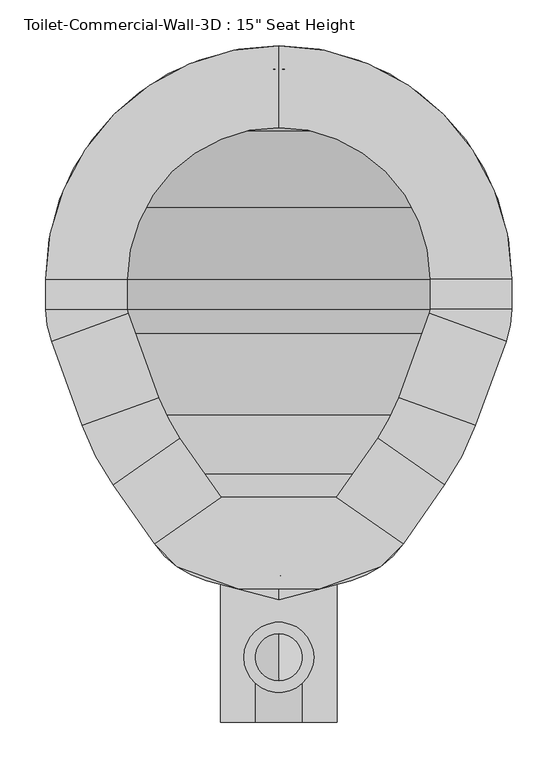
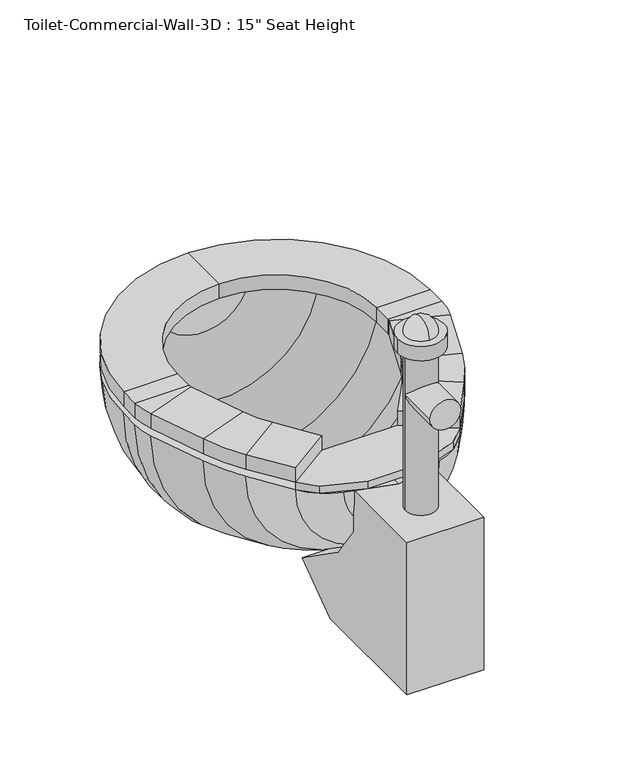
"""IFC4 building model written with IfcOpenShell, lengths in millimetres: flow terminal geometry."""

import ifcopenshell
import ifcopenshell.guid

model = None  # the IFC model being written
_history = None  # IfcOwnerHistory: only IFC2X3 demands one
_inside = {}  # id of a spatial element -> (the spatial element, [elements in it])
_under = {}  # id of a project, library or spatial element -> (it, [spatial elements below it])
_declared = {}  # id of a project -> (the project, [libraries it declares])
_typed = {}  # id of a type object -> (the type object, [elements of that type])
_made_of = {}  # id of a material, layer set ... -> (it, [elements and type objects made of it])


def new_model(schema):
    """Start an empty IFC model of exactly this schema.

    Asked for "IFC4X3", IfcOpenShell would pick the latest addendum, in which some entities
    have other attributes; the version numbers below select the first issue.
    IFC2X3 requires an IfcOwnerHistory on every rooted entity: one is made here for all.
    """
    global model, _history
    if schema == "IFC4X3":
        model = ifcopenshell.file(schema_version=(4, 3, 0, 0))
    else:
        model = ifcopenshell.file(schema=schema)
    _inside.clear()
    _under.clear()
    _declared.clear()
    _typed.clear()
    _made_of.clear()
    _history = None
    if model.schema == "IFC2X3":
        org = make("IfcOrganization", Name="unknown")
        user = make(
            "IfcPersonAndOrganization",
            ThePerson=make("IfcPerson", FamilyName="unknown"),
            TheOrganization=org,
        )
        app = make(
            "IfcApplication",
            ApplicationDeveloper=org,
            Version="unknown",
            ApplicationFullName="unknown",
            ApplicationIdentifier="unknown",
        )
        _history = make(
            "IfcOwnerHistory",
            OwningUser=user,
            OwningApplication=app,
            ChangeAction="ADDED",
            CreationDate=0,
        )
    return model


def make(cls, **values):
    """One entity of the class cls with the attributes given. An attribute that is None is left unset."""
    return model.create_entity(
        cls, **{name: value for name, value in values.items() if value is not None}
    )


def rooted(cls, **values):
    """An entity with a GlobalId (a new one), such as an element, a storey or a relation."""
    return make(cls, GlobalId=ifcopenshell.guid.new(), OwnerHistory=_history, **values)


def si_unit(unit_type, name, prefix=None):
    """IfcSIUnit, for example si_unit("LENGTHUNIT", "METRE", prefix="MILLI")."""
    return make("IfcSIUnit", UnitType=unit_type, Prefix=prefix, Name=name)


def assignment(units):
    """IfcUnitAssignment: the units of a project."""
    return None if units is None else make("IfcUnitAssignment", Units=units)


def point(xyz):
    """IfcCartesianPoint."""
    return None if xyz is None else make("IfcCartesianPoint", Coordinates=xyz)


def direction(xyz):
    """IfcDirection."""
    return None if xyz is None else make("IfcDirection", DirectionRatios=xyz)


def frame(location, z_axis=None, x_axis=None):
    """IfcAxis2Placement3D, a coordinate frame: its origin and axes. An axis left out is left unset."""
    return make(
        "IfcAxis2Placement3D",
        Location=point(location),
        Axis=direction(z_axis),
        RefDirection=direction(x_axis),
    )


def frame_2d(location, x_axis=None):
    """IfcAxis2Placement2D, a coordinate frame in the plane: its origin and x axis."""
    return make(
        "IfcAxis2Placement2D", Location=point(location), RefDirection=direction(x_axis)
    )


def origin():
    """The frame at (0, 0, 0) with its axes left unset."""
    return frame((0.0, 0.0, 0.0))


def place(relative_to, where):
    """IfcLocalPlacement: puts the frame where relative to a parent placement (None: the world)."""
    return make(
        "IfcLocalPlacement", PlacementRelTo=relative_to, RelativePlacement=where
    )


def context(
    kind, dimensions, precision=None, world=None, true_north=None, identifier=None
):
    """IfcGeometricRepresentationContext, for example the 3D "Model" context."""
    return make(
        "IfcGeometricRepresentationContext",
        ContextIdentifier=identifier,
        ContextType=kind,
        CoordinateSpaceDimension=dimensions,
        Precision=precision,
        WorldCoordinateSystem=world,
        TrueNorth=true_north,
    )


def project(units=None, contexts=None):
    """IfcProject with its units and contexts."""
    return rooted(
        "IfcProject",
        Name="project",
        RepresentationContexts=contexts,
        UnitsInContext=assignment(units),
    )


def spatial(cls, under=None, at=None, **own):
    """A site, building, storey or space (cls), placed at a placement, below another one or the project."""
    s = rooted(cls, ObjectPlacement=at, **own)
    if under is not None:
        _under.setdefault(under.id(), (under, []))[1].append(s)
    return s


def polyline(points):
    """IfcPolyline through the points."""
    return make("IfcPolyline", Points=[point(p) for p in points])


def circle_curve(where, radius):
    """IfcCircle in the frame where."""
    return make("IfcCircle", Position=where, Radius=radius)


def ellipse_curve(where, semi_axis1, semi_axis2):
    """IfcEllipse in the frame where."""
    return make(
        "IfcEllipse", Position=where, SemiAxis1=semi_axis1, SemiAxis2=semi_axis2
    )


def trimmed(basis, trim1, trim2, sense, master):
    """IfcTrimmedCurve: the piece of a basis curve between two trims."""
    return make(
        "IfcTrimmedCurve",
        BasisCurve=basis,
        Trim1=trim1,
        Trim2=trim2,
        SenseAgreement=sense,
        MasterRepresentation=master,
    )


def segment(curve, same_sense, transition):
    """IfcCompositeCurveSegment."""
    return make(
        "IfcCompositeCurveSegment",
        Transition=transition,
        SameSense=same_sense,
        ParentCurve=curve,
    )


def composite_curve(segments, self_intersect=None):
    """IfcCompositeCurve: segments joined end to end."""
    return make("IfcCompositeCurve", Segments=segments, SelfIntersect=self_intersect)


def outline(outer, holes=None, kind="AREA"):
    """IfcArbitraryClosedProfileDef: a profile drawn as a closed curve; with holes, ...WithVoids."""
    if holes is None:
        return make("IfcArbitraryClosedProfileDef", ProfileType=kind, OuterCurve=outer)
    return make(
        "IfcArbitraryProfileDefWithVoids",
        ProfileType=kind,
        OuterCurve=outer,
        InnerCurves=holes,
    )


def extrude(swept, where, along, depth):
    """IfcExtrudedAreaSolid: the profile swept, set in the frame where, extruded along a direction by depth."""
    return make(
        "IfcExtrudedAreaSolid",
        SweptArea=swept,
        Position=where,
        ExtrudedDirection=direction(along),
        Depth=depth,
    )


def shape(context_of_items, identifier, shape_type, items):
    """IfcShapeRepresentation: the items that make up one representation, for example the "Body"."""
    return make(
        "IfcShapeRepresentation",
        ContextOfItems=context_of_items,
        RepresentationIdentifier=identifier,
        RepresentationType=shape_type,
        Items=items,
    )


def source(mapping_origin, context_of_items, identifier, shape_type, items):
    """IfcRepresentationMap: a shape defined once, which mapped items show again and again."""
    return make(
        "IfcRepresentationMap",
        MappingOrigin=mapping_origin,
        MappedRepresentation=shape(context_of_items, identifier, shape_type, items),
    )


def transform(
    local_origin,
    x_axis=None,
    y_axis=None,
    z_axis=None,
    scale=None,
    scale2=None,
    scale3=None,
    uniform=True,
):
    """IfcCartesianTransformationOperator3D, or its non-uniform kind. x_axis, y_axis, z_axis: its Axis1, 2, 3."""
    if uniform:
        return make(
            "IfcCartesianTransformationOperator3D",
            Axis1=direction(x_axis),
            Axis2=direction(y_axis),
            LocalOrigin=point(local_origin),
            Scale=scale,
            Axis3=direction(z_axis),
        )
    return make(
        "IfcCartesianTransformationOperator3DnonUniform",
        Axis1=direction(x_axis),
        Axis2=direction(y_axis),
        LocalOrigin=point(local_origin),
        Scale=scale,
        Axis3=direction(z_axis),
        Scale2=scale2,
        Scale3=scale3,
    )


def mapped(mapping_source, mapping_target):
    """IfcMappedItem: shows the shape of a source again, moved by a transform."""
    return make(
        "IfcMappedItem", MappingSource=mapping_source, MappingTarget=mapping_target
    )


def made_of(thing, what):
    """Note that an element or type object is made of a material, layer set ...; save() writes the relation."""
    if what is not None:
        _made_of.setdefault(what.id(), (what, []))[1].append(thing)
    return thing


def element(
    cls,
    number,
    at=None,
    inside=None,
    cuts=None,
    type_object=None,
    material=None,
    context=None,
    identifier="Body",
    shape_type=None,
    held_by="IfcProductDefinitionShape",
    body=None,
    shapes=None,
    **own,
):
    """One element of the class cls, such as IfcWall. Its Tag is "e" and its number.

    at: its placement. inside: the storey or other place that contains it. cuts: it is an
    opening in that element (IfcRelVoidsElement). A single representation is given by context,
    identifier, shape_type and body (its items); several are given by shapes. held_by: the class
    of the entity that holds the representations. save() writes the other relations.
    """
    e = rooted(cls, Tag="e%d" % number, ObjectPlacement=at, **own)
    if body is not None:
        shapes = [shape(context, identifier, shape_type, body)]
    if shapes is not None:
        e.Representation = make(held_by, Representations=shapes)
    if inside is not None:
        _inside.setdefault(inside.id(), (inside, []))[1].append(e)
    if cuts is not None:
        rooted(
            "IfcRelVoidsElement", RelatingBuildingElement=cuts, RelatedOpeningElement=e
        )
    if type_object is not None:
        _typed.setdefault(type_object.id(), (type_object, []))[1].append(e)
    return made_of(e, material)


def aggregate(whole, parts):
    """IfcRelAggregates: a whole, such as a stair, and the parts it consists of."""
    return rooted("IfcRelAggregates", RelatingObject=whole, RelatedObjects=parts)


def save(model, path):
    """Write the relations noted so far, then the file.

    IfcRelAggregates (storeys below a building ...), IfcRelContainedInSpatialStructure (elements
    in a storey), IfcRelDefinesByType, IfcRelAssociatesMaterial and IfcRelDeclares: one each for
    every whole, place, type object, material and project.
    """
    for whole, parts in _under.values():
        aggregate(whole, parts)
    for where, things in _inside.values():
        rooted(
            "IfcRelContainedInSpatialStructure",
            RelatedElements=things,
            RelatingStructure=where,
        )
    for kind, things in _typed.values():
        rooted("IfcRelDefinesByType", RelatedObjects=things, RelatingType=kind)
    for what, things in _made_of.values():
        rooted("IfcRelAssociatesMaterial", RelatedObjects=things, RelatingMaterial=what)
    for by, libraries in _declared.values():
        rooted("IfcRelDeclares", RelatingContext=by, RelatedDefinitions=libraries)
    model.write(path)


def plane_surface(at):
    """IfcPlane: the flat surface through the origin of the frame at, square to its z axis."""
    return make("IfcPlane", Position=at)


def cylinder_surface(at, radius):
    """IfcCylindricalSurface: all points at the distance radius from the z axis of the frame at."""
    return make("IfcCylindricalSurface", Position=at, Radius=radius)


def revolved_surface(curve, axis_point, axis_direction):
    """IfcSurfaceOfRevolution: the curve turned about the line through axis_point along axis_direction."""
    return make(
        "IfcSurfaceOfRevolution",
        SweptCurve=make("IfcArbitraryOpenProfileDef", ProfileType="CURVE", Curve=curve),
        AxisPosition=make("IfcAxis1Placement", Location=point(axis_point), Axis=direction(axis_direction)),
    )


def advanced_brep(points, edges, surfaces, faces):
    """IfcAdvancedBrep: a solid bounded by faces that lie on surfaces and meet in shared edges.

    An edge is (start, end): straight between two places in points (the first is 0);
    or (start, end, curve); or (start, end, curve, False) where it runs against its curve.
    A face is (place in surfaces, loops), or (place, loops, False) where it looks against
    its surface's normal. A loop lists edges by number (the first is 1), with a minus sign
    where the edge is run from its end to its start. The first loop is the outer one.
    """
    corners = [point(p) for p in points]
    vertices = [make("IfcVertexPoint", VertexGeometry=c) for c in corners]
    made = []
    for start, end, *more in edges:
        made.append(
            make(
                "IfcEdgeCurve",
                EdgeStart=vertices[start],
                EdgeEnd=vertices[end],
                EdgeGeometry=more[0] if more else make("IfcPolyline", Points=[corners[start], corners[end]]),
                SameSense=more[1] if len(more) > 1 else True,
            )
        )
    hull = []
    for where, loops, *sense in faces:
        bounds = []
        for j, loop in enumerate(loops):
            ring = [make("IfcOrientedEdge", EdgeElement=made[abs(k) - 1], Orientation=k > 0) for k in loop]
            bounds.append(
                make(
                    "IfcFaceOuterBound" if j == 0 else "IfcFaceBound",
                    Bound=make("IfcEdgeLoop", EdgeList=ring),
                    Orientation=True,
                )
            )
        hull.append(make("IfcAdvancedFace", Bounds=bounds, FaceSurface=surfaces[where], SameSense=sense[0] if sense else True))
    return make("IfcAdvancedBrep", Outer=make("IfcClosedShell", CfsFaces=hull))


def flow_terminal_a7ec1c32(model_context):
    return source(origin(), model_context, "Body", "SolidModel", [
        extrude(outline(polyline([(467.7541169, 330.7597495), (540.5767337, 279.7688043), (515.6262519, 254.8183226), (449.563909, 230.7735961), (360.2423986, 230.7735961), (294.1800557, 254.8183226), (269.229574, 279.7688043), (342.0521907, 330.7597495), (467.7541169, 330.7597495)])), frame((0.0, 0.0, 342.9), z_axis=(0.0, 0.0, 1.0), x_axis=(1.0, 0.0, 0.0)), (0.0, 0.0, 1.0), 12.7),
        advanced_brep(
        [(467.7541169, 330.7597495, 355.6), (540.5767337, 279.7688043, 355.6), (540.5767337, 279.7688043, 381.0), (467.7541169, 330.7597495, 381.0), (512.8583992, 395.1753403, 355.6), (585.6810159, 344.1843951, 355.6), (585.6810159, 344.1843951, 381.0), (512.8583992, 395.1753403, 381.0), (619.360053, 408.8812234, 355.6), (535.821379, 439.2868141, 355.6), (619.360053, 408.8812234, 381.0), (535.821379, 439.2868141, 381.0), (569.2372501, 531.0961654, 355.6), (652.7759241, 500.6905747, 355.6), (652.7759241, 500.6905747, 381.0), (569.2372501, 531.0961654, 381.0), (658.9031538, 535.4398212, 355.6), (570.0031538, 535.4398212, 355.6), (658.9031538, 535.4398212, 381.0), (570.0031538, 535.4398212, 381.0), (570.0031538, 568.325, 355.6), (658.9031538, 568.325, 355.6), (658.9031538, 568.325, 381.0), (570.0031538, 568.325, 381.0), (404.9031538, 822.325, 355.6), (404.9031538, 733.425, 355.6), (404.9031538, 822.325, 381.0), (404.9031538, 733.425, 381.0), (150.9031538, 568.325, 355.6), (239.8031538, 568.325, 355.6), (150.9031538, 568.325, 381.0), (239.8031538, 568.325, 381.0), (239.8031538, 535.4398212, 355.6), (150.9031538, 535.4398212, 355.6), (150.9031538, 535.4398212, 381.0), (239.8031538, 535.4398212, 381.0), (157.0303835, 500.6905747, 355.6), (240.5690575, 531.0961654, 355.6), (157.0303835, 500.6905747, 381.0), (240.5690575, 531.0961654, 381.0), (273.9849286, 439.2868141, 355.6), (190.4462546, 408.8812234, 355.6), (190.4462546, 408.8812234, 381.0), (273.9849286, 439.2868141, 381.0), (224.1252917, 344.1843951, 355.6), (296.9479084, 395.1753403, 355.6), (224.1252917, 344.1843951, 381.0), (296.9479084, 395.1753403, 381.0), (342.0521907, 330.7597495, 355.6), (342.0521907, 330.7597495, 381.0), (269.229574, 279.7688043, 381.0), (269.229574, 279.7688043, 355.6)],
        [
            (0, 1),
            (1, 2),
            (2, 3),
            (3, 0),
            (0, 4),
            (4, 5),
            (5, 1),
            (5, 6),
            (6, 2),
            (6, 7),
            (7, 3),
            (7, 4),
            (8, 5, circle_curve(frame((356.8099347, 504.4416514, 355.6), z_axis=(0.0, 0.0, -1.0), x_axis=(0.81915204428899, -0.5735764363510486, 0.0)), 279.4)),
            (4, 9, circle_curve(frame((356.8099347, 504.4416514, 355.6), z_axis=(0.0, 0.0, 1.0), x_axis=(0.81915204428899, -0.5735764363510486, 0.0)), 190.5)),
            (9, 8),
            (10, 6, circle_curve(frame((356.8099347, 504.4416514, 381.0), z_axis=(0.0, 0.0, -1.0), x_axis=(0.81915204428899, -0.5735764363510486, 0.0)), 279.4)),
            (8, 10),
            (11, 7, circle_curve(frame((356.8099347, 504.4416514, 381.0), z_axis=(0.0, 0.0, -1.0), x_axis=(0.81915204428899, -0.5735764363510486, 0.0)), 190.5)),
            (10, 11),
            (11, 9),
            (9, 12),
            (12, 13),
            (13, 8),
            (13, 14),
            (14, 10),
            (14, 15),
            (15, 11),
            (15, 12),
            (16, 13, circle_curve(frame((557.3031538, 535.4398212, 355.6), z_axis=(0.0, 0.0, -1.0), x_axis=(0.939692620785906, -0.34202014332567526, 0.0)), 101.6)),
            (12, 17, circle_curve(frame((557.3031538, 535.4398212, 355.6), z_axis=(0.0, 0.0, 1.0), x_axis=(0.939692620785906, -0.34202014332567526, 0.0)), 12.7)),
            (17, 16),
            (18, 14, circle_curve(frame((557.3031538, 535.4398212, 381.0), z_axis=(0.0, 0.0, -1.0), x_axis=(0.939692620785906, -0.34202014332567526, 0.0)), 101.6)),
            (16, 18),
            (19, 15, circle_curve(frame((557.3031538, 535.4398212, 381.0), z_axis=(0.0, 0.0, -1.0), x_axis=(0.939692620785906, -0.34202014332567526, 0.0)), 12.7)),
            (18, 19),
            (19, 17),
            (17, 20),
            (20, 21),
            (21, 16),
            (21, 22),
            (22, 18),
            (22, 23),
            (23, 19),
            (23, 20),
            (24, 21, circle_curve(frame((404.9031538, 568.325, 355.6), z_axis=(0.0, 0.0, -1.0), x_axis=(1.0, 0.0, 0.0)), 254.0)),
            (20, 25, circle_curve(frame((404.9031538, 568.325, 355.6), z_axis=(0.0, 0.0, 1.0), x_axis=(1.0, 0.0, 0.0)), 165.1)),
            (25, 24),
            (26, 22, circle_curve(frame((404.9031538, 568.325, 381.0), z_axis=(0.0, 0.0, -1.0), x_axis=(1.0, 0.0, 0.0)), 254.0)),
            (24, 26),
            (27, 23, circle_curve(frame((404.9031538, 568.325, 381.0), z_axis=(0.0, 0.0, -1.0), x_axis=(1.0, 0.0, 0.0)), 165.1)),
            (26, 27),
            (27, 25),
            (28, 24, circle_curve(frame((404.9031538, 568.325, 355.6), z_axis=(0.0, 0.0, -1.0), x_axis=(0.0, 1.0, 0.0)), 254.0)),
            (25, 29, circle_curve(frame((404.9031538, 568.325, 355.6), z_axis=(0.0, 0.0, 1.0), x_axis=(0.0, 1.0, 0.0)), 165.1)),
            (29, 28),
            (30, 26, circle_curve(frame((404.9031538, 568.325, 381.0), z_axis=(0.0, 0.0, -1.0), x_axis=(0.0, 1.0, 0.0)), 254.0)),
            (28, 30),
            (31, 27, circle_curve(frame((404.9031538, 568.325, 381.0), z_axis=(0.0, 0.0, -1.0), x_axis=(0.0, 1.0, 0.0)), 165.1)),
            (30, 31),
            (31, 29),
            (29, 32),
            (32, 33),
            (33, 28),
            (33, 34),
            (34, 30),
            (34, 35),
            (35, 31),
            (35, 32),
            (36, 33, circle_curve(frame((252.5031538, 535.4398212, 355.6), z_axis=(0.0, 0.0, -1.0), x_axis=(-1.0, 0.0, 0.0)), 101.6)),
            (32, 37, circle_curve(frame((252.5031538, 535.4398212, 355.6), z_axis=(0.0, 0.0, 1.0), x_axis=(-1.0, 0.0, 0.0)), 12.7)),
            (37, 36),
            (38, 34, circle_curve(frame((252.5031538, 535.4398212, 381.0), z_axis=(0.0, 0.0, -1.0), x_axis=(-1.0, 0.0, 0.0)), 101.6)),
            (36, 38),
            (39, 35, circle_curve(frame((252.5031538, 535.4398212, 381.0), z_axis=(0.0, 0.0, -1.0), x_axis=(-1.0, 0.0, 0.0)), 12.7)),
            (38, 39),
            (39, 37),
            (37, 40),
            (40, 41),
            (41, 36),
            (41, 42),
            (42, 38),
            (42, 43),
            (43, 39),
            (43, 40),
            (44, 41, circle_curve(frame((452.9963729, 504.4416514, 355.6), z_axis=(0.0, 0.0, -1.0), x_axis=(-0.9396926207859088, -0.34202014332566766, 0.0)), 279.4)),
            (40, 45, circle_curve(frame((452.9963729, 504.4416514, 355.6), z_axis=(0.0, 0.0, 1.0), x_axis=(-0.9396926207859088, -0.34202014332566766, 0.0)), 190.5)),
            (45, 44),
            (46, 42, circle_curve(frame((452.9963729, 504.4416514, 381.0), z_axis=(0.0, 0.0, -1.0), x_axis=(-0.9396926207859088, -0.34202014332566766, 0.0)), 279.4)),
            (44, 46),
            (47, 43, circle_curve(frame((452.9963729, 504.4416514, 381.0), z_axis=(0.0, 0.0, -1.0), x_axis=(-0.9396926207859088, -0.34202014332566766, 0.0)), 190.5)),
            (46, 47),
            (47, 45),
            (48, 49),
            (49, 50),
            (50, 51),
            (51, 48),
            (45, 48),
            (51, 44),
            (50, 46),
            (49, 47),
        ],
        [
            plane_surface(frame((540.5767337, 279.7688043, 439.6203184), z_axis=(-0.5735764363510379, -0.8191520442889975, 0.0), x_axis=(0.8191520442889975, -0.5735764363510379, 0.0))),
            plane_surface(frame((467.7541169, 330.7597495, 355.6), z_axis=(0.0, 0.0, -1.0), x_axis=(0.5735764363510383, 0.8191520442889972, 0.0))),
            plane_surface(frame((540.5767337, 279.7688043, 355.6), z_axis=(0.8191520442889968, -0.5735764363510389, 0.0), x_axis=(0.5735764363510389, 0.8191520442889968, 0.0))),
            plane_surface(frame((540.5767337, 279.7688043, 381.0), z_axis=(0.0, 0.0, 1.0), x_axis=(0.5735764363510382, 0.8191520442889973, 0.0))),
            plane_surface(frame((467.7541169, 330.7597495, 381.0), z_axis=(-0.8191520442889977, 0.5735764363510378, 0.0), x_axis=(0.5735764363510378, 0.8191520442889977, 0.0))),
            plane_surface(frame((356.8099347, 504.4416514, 355.6), z_axis=(0.0, 0.0, -1.0), x_axis=(0.81915204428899, -0.5735764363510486, 0.0))),
            cylinder_surface(frame((356.8099347, 504.4416514, 342.9), z_axis=(0.0, 0.0, 1.0), x_axis=(0.81915204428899, -0.5735764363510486, 0.0)), 279.4),
            plane_surface(frame((356.8099347, 504.4416514, 381.0), z_axis=(0.0, 0.0, 1.0), x_axis=(0.81915204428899, -0.5735764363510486, 0.0))),
            revolved_surface(polyline([(512.8583991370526, 395.1753402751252, 381.0), (512.8583991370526, 395.1753402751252, 355.6)]), (356.8099347, 504.4416514, 342.9), (0.0, 0.0, 1.0)),
            plane_surface(frame((535.821379, 439.2868141, 355.6), z_axis=(0.0, 0.0, -1.0), x_axis=(0.34202014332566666, 0.9396926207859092, 0.0))),
            plane_surface(frame((619.360053, 408.8812234, 355.6), z_axis=(0.9396926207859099, -0.3420201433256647, 0.0), x_axis=(0.3420201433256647, 0.9396926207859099, 0.0))),
            plane_surface(frame((619.360053, 408.8812234, 381.0), z_axis=(0.0, 0.0, 1.0), x_axis=(0.3420201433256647, 0.9396926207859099, 0.0))),
            plane_surface(frame((535.821379, 439.2868141, 381.0), z_axis=(-0.9396926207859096, 0.3420201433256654, 0.0), x_axis=(0.3420201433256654, 0.9396926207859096, 0.0))),
            plane_surface(frame((557.3031538, 535.4398212, 355.6), z_axis=(0.0, 0.0, -1.0), x_axis=(0.939692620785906, -0.34202014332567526, 0.0))),
            cylinder_surface(frame((557.3031538, 535.4398212, 342.9), z_axis=(0.0, 0.0, 1.0), x_axis=(0.939692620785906, -0.34202014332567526, 0.0)), 101.6),
            plane_surface(frame((557.3031538, 535.4398212, 381.0), z_axis=(0.0, 0.0, 1.0), x_axis=(0.939692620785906, -0.34202014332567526, 0.0))),
            revolved_surface(polyline([(569.237250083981, 531.0961653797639, 381.0), (569.237250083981, 531.0961653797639, 355.6)]), (557.3031538, 535.4398212, 342.9), (0.0, 0.0, 1.0)),
            plane_surface(frame((570.0031538, 535.4398212, 355.6), z_axis=(0.0, 0.0, -1.0), x_axis=(0.0, 1.0, 0.0))),
            plane_surface(frame((658.9031538, 535.4398212, 355.6), z_axis=(1.0, 0.0, 0.0), x_axis=(0.0, 1.0, 0.0))),
            plane_surface(frame((658.9031538, 535.4398212, 381.0), z_axis=(0.0, 0.0, 1.0), x_axis=(0.0, 1.0, 0.0))),
            plane_surface(frame((570.0031538, 535.4398212, 381.0), z_axis=(-1.0, 0.0, 0.0), x_axis=(0.0, 1.0, 0.0))),
            plane_surface(frame((404.9031538, 568.325, 355.6), z_axis=(0.0, 0.0, -1.0), x_axis=(1.0, 0.0, 0.0))),
            cylinder_surface(frame((404.9031538, 568.325, 342.9), z_axis=(0.0, 0.0, 1.0), x_axis=(1.0, 0.0, 0.0)), 254.0),
            plane_surface(frame((404.9031538, 568.325, 381.0), z_axis=(0.0, 0.0, 1.0), x_axis=(1.0, 0.0, 0.0))),
            revolved_surface(polyline([(570.0031538, 568.325, 381.0), (570.0031538, 568.325, 355.6)]), (404.9031538, 568.325, 342.9), (0.0, 0.0, 1.0)),
            plane_surface(frame((404.9031538, 568.325, 355.6), z_axis=(0.0, 0.0, -1.0), x_axis=(0.0, 1.0, 0.0))),
            cylinder_surface(frame((404.9031538, 568.325, 342.9), z_axis=(0.0, 0.0, 1.0), x_axis=(0.0, 1.0, 0.0)), 254.0),
            plane_surface(frame((404.9031538, 568.325, 381.0), z_axis=(0.0, 0.0, 1.0), x_axis=(0.0, 1.0, 0.0))),
            revolved_surface(polyline([(404.9031538, 733.4250000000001, 381.0), (404.9031538, 733.4250000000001, 355.6)]), (404.9031538, 568.325, 342.9), (0.0, 0.0, 1.0)),
            plane_surface(frame((239.8031538, 568.325, 355.6), z_axis=(0.0, 0.0, -1.0), x_axis=(0.0, -1.0, 0.0))),
            plane_surface(frame((150.9031538, 568.325, 355.6), z_axis=(-1.0, 0.0, 0.0), x_axis=(0.0, -1.0, 0.0))),
            plane_surface(frame((150.9031538, 568.325, 381.0), z_axis=(0.0, 0.0, 1.0), x_axis=(0.0, -1.0, 0.0))),
            plane_surface(frame((239.8031538, 568.325, 381.0), z_axis=(1.0, 0.0, 0.0), x_axis=(0.0, -1.0, 0.0))),
            plane_surface(frame((252.5031538, 535.4398212, 355.6), z_axis=(0.0, 0.0, -1.0), x_axis=(-1.0, 0.0, 0.0))),
            cylinder_surface(frame((252.5031538, 535.4398212, 342.9), z_axis=(0.0, 0.0, 1.0), x_axis=(-1.0, 0.0, 0.0)), 101.6),
            plane_surface(frame((252.5031538, 535.4398212, 381.0), z_axis=(0.0, 0.0, 1.0), x_axis=(-1.0, 0.0, 0.0))),
            revolved_surface(polyline([(239.80315380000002, 535.4398212, 381.0), (239.80315380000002, 535.4398212, 355.6)]), (252.5031538, 535.4398212, 342.9), (0.0, 0.0, 1.0)),
            plane_surface(frame((240.5690575, 531.0961654, 355.6), z_axis=(0.0, 0.0, -1.0), x_axis=(0.3420201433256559, -0.9396926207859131, 0.0))),
            plane_surface(frame((157.0303835, 500.6905747, 355.6), z_axis=(-0.9396926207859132, -0.34202014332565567, 0.0), x_axis=(0.34202014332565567, -0.9396926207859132, 0.0))),
            plane_surface(frame((157.0303835, 500.6905747, 381.0), z_axis=(0.0, 0.0, 1.0000000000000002), x_axis=(0.3420201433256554, -0.9396926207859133, 0.0))),
            plane_surface(frame((240.5690575, 531.0961654, 381.0), z_axis=(0.9396926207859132, 0.34202014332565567, 0.0), x_axis=(0.34202014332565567, -0.9396926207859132, 0.0))),
            plane_surface(frame((452.9963729, 504.4416514, 355.6), z_axis=(0.0, 0.0, -1.0), x_axis=(-0.9396926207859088, -0.34202014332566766, 0.0))),
            cylinder_surface(frame((452.9963729, 504.4416514, 342.9), z_axis=(0.0, 0.0, 1.0), x_axis=(-0.9396926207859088, -0.34202014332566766, 0.0)), 279.4),
            plane_surface(frame((452.9963729, 504.4416514, 381.0), z_axis=(0.0, 0.0, 1.0), x_axis=(-0.9396926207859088, -0.34202014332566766, 0.0))),
            revolved_surface(polyline([(273.98492864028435, 439.2868140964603, 381.0), (273.98492864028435, 439.2868140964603, 355.6)]), (452.9963729, 504.4416514, 342.9), (0.0, 0.0, 1.0)),
            plane_surface(frame((269.229574, 279.7688043, 246.1796816), z_axis=(0.5735764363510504, -0.8191520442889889, 0.0), x_axis=(0.8191520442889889, 0.5735764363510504, 0.0))),
            plane_surface(frame((296.9479084, 395.1753403, 355.6), z_axis=(0.0, 0.0, -1.0), x_axis=(0.5735764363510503, -0.8191520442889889, 0.0))),
            plane_surface(frame((224.1252917, 344.1843951, 355.6), z_axis=(-0.8191520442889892, -0.5735764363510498, 0.0), x_axis=(0.5735764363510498, -0.8191520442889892, 0.0))),
            plane_surface(frame((224.1252917, 344.1843951, 381.0), z_axis=(0.0, 0.0, 1.0), x_axis=(0.5735764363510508, -0.8191520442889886, 0.0))),
            plane_surface(frame((296.9479084, 395.1753403, 381.0), z_axis=(0.8191520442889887, 0.5735764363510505, 0.0), x_axis=(0.5735764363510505, -0.8191520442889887, 0.0))),
        ],
        [
            (0, [[1, 2, 3, 4]]),
            (1, [[-1, 5, 6, 7]]),
            (2, [[-2, -7, 8, 9]]),
            (3, [[-3, -9, 10, 11]]),
            (4, [[-4, -11, 12, -5]]),
            (5, [[13, -6, 14, 15]]),
            (6, [[16, -8, -13, 17]]),
            (7, [[18, -10, -16, 19]]),
            (8, [[-14, -12, -18, 20]]),
            (9, [[-15, 21, 22, 23]]),
            (10, [[-17, -23, 24, 25]]),
            (11, [[-19, -25, 26, 27]]),
            (12, [[-20, -27, 28, -21]]),
            (13, [[29, -22, 30, 31]]),
            (14, [[32, -24, -29, 33]]),
            (15, [[34, -26, -32, 35]]),
            (16, [[-30, -28, -34, 36]]),
            (17, [[-31, 37, 38, 39]]),
            (18, [[-33, -39, 40, 41]]),
            (19, [[-35, -41, 42, 43]]),
            (20, [[-36, -43, 44, -37]]),
            (21, [[45, -38, 46, 47]]),
            (22, [[48, -40, -45, 49]]),
            (23, [[50, -42, -48, 51]]),
            (24, [[-46, -44, -50, 52]]),
            (25, [[53, -47, 54, 55]]),
            (26, [[56, -49, -53, 57]]),
            (27, [[58, -51, -56, 59]]),
            (28, [[-54, -52, -58, 60]]),
            (29, [[-55, 61, 62, 63]]),
            (30, [[-57, -63, 64, 65]]),
            (31, [[-59, -65, 66, 67]]),
            (32, [[-60, -67, 68, -61]]),
            (33, [[69, -62, 70, 71]]),
            (34, [[72, -64, -69, 73]]),
            (35, [[74, -66, -72, 75]]),
            (36, [[-70, -68, -74, 76]]),
            (37, [[-71, 77, 78, 79]]),
            (38, [[-73, -79, 80, 81]]),
            (39, [[-75, -81, 82, 83]]),
            (40, [[-76, -83, 84, -77]]),
            (41, [[85, -78, 86, 87]]),
            (42, [[88, -80, -85, 89]]),
            (43, [[90, -82, -88, 91]]),
            (44, [[-86, -84, -90, 92]]),
            (45, [[93, 94, 95, 96]]),
            (46, [[-87, 97, -96, 98]]),
            (47, [[-89, -98, -95, 99]]),
            (48, [[-91, -99, -94, 100]]),
            (49, [[-92, -100, -93, -97]]),
        ],
    ),
        advanced_brep(
        [(491.7762702, 807.0069257, 342.9), (404.9031538, 822.325, 342.9), (404.9031538, 796.925, 342.9), (483.0889586, 783.1387331, 342.9), (566.547764, 729.9696102, 342.9), (619.7168869, 646.5108048, 342.9), (633.5031538, 568.325, 342.9), (633.5031538, 535.4398212, 342.9), (628.9077315, 509.3778863, 342.9), (596.6355667, 420.7108422, 342.9), (562.9565296, 356.0140139, 342.9), (525.0728964, 301.9105786, 342.9), (468.1430637, 262.0478806, 342.9), (404.9031538, 245.1027978, 342.9), (404.9031538, 218.8067829, 342.9), (483.6469009, 239.9061063, 342.9), (540.5767337, 279.7688043, 342.9), (585.6810159, 344.1843951, 342.9), (619.360053, 408.8812234, 342.9), (652.7759241, 500.6905747, 342.9), (658.9031538, 535.4398212, 342.9), (658.9031538, 568.325, 342.9), (643.5850795, 655.1981164, 342.9), (584.5082762, 747.9301224, 342.9), (318.0300374, 807.0069257, 342.9), (225.2980314, 747.9301224, 342.9), (166.2212281, 655.1981164, 342.9), (150.9031538, 568.325, 342.9), (150.9031538, 535.4398212, 342.9), (157.0303835, 500.6905747, 342.9), (190.4462546, 408.8812234, 342.9), (224.1252917, 344.1843951, 342.9), (269.229574, 279.7688043, 342.9), (326.1594067, 239.9061063, 342.9), (341.663244, 262.0478806, 342.9), (284.7334112, 301.9105786, 342.9), (246.849778, 356.0140139, 342.9), (213.1707409, 420.7108422, 342.9), (180.8985761, 509.3778863, 342.9), (176.3031538, 535.4398212, 342.9), (176.3031538, 568.325, 342.9), (190.0894207, 646.5108048, 342.9), (243.2585436, 729.9696102, 342.9), (326.7173491, 783.1387331, 342.9)],
        [
            (0, 1, circle_curve(frame((404.9031538, 568.325, 342.9), z_axis=(0.0, 0.0, 1.0), x_axis=(1.0, 0.0, 0.0)), 254.0)),
            (1, 2),
            (2, 3, circle_curve(frame((404.9031538, 568.325, 342.9), z_axis=(0.0, 0.0, -1.0), x_axis=(1.0, 0.0, 0.0)), 228.6)),
            (3, 4, circle_curve(frame((404.9031538, 568.325, 342.9), z_axis=(0.0, 0.0, -1.0), x_axis=(1.0, 0.0, 0.0)), 228.6)),
            (4, 5, circle_curve(frame((404.9031538, 568.325, 342.9), z_axis=(0.0, 0.0, -1.0), x_axis=(1.0, 0.0, 0.0)), 228.6)),
            (5, 6, circle_curve(frame((404.9031538, 568.325, 342.9), z_axis=(0.0, 0.0, -1.0), x_axis=(1.0, 0.0, 0.0)), 228.6)),
            (6, 7),
            (7, 8, circle_curve(frame((557.3031538, 535.4398212, 342.9), z_axis=(0.0, 0.0, -1.0), x_axis=(1.0, 0.0, 0.0)), 76.2)),
            (8, 9),
            (9, 10, circle_curve(frame((334.0854485, 516.2712703, 342.9), z_axis=(0.0, 0.0, -1.0), x_axis=(1.0, 0.0, 0.0)), 279.4)),
            (10, 11),
            (11, 12, circle_curve(frame((441.8470487, 360.1859446, 342.9), z_axis=(0.0, 0.0, -1.0), x_axis=(1.0, 0.0, 0.0)), 101.6)),
            (12, 13),
            (13, 14),
            (14, 15),
            (15, 16, circle_curve(frame((457.350886, 338.0441703, 342.9), z_axis=(0.0, 0.0, 1.0), x_axis=(1.0, 0.0, 0.0)), 101.6)),
            (16, 17),
            (17, 18, circle_curve(frame((356.8099347, 504.4416514, 342.9), z_axis=(0.0, 0.0, 1.0), x_axis=(1.0, 0.0, 0.0)), 279.4)),
            (18, 19),
            (19, 20, circle_curve(frame((557.3031538, 535.4398212, 342.9), z_axis=(0.0, 0.0, 1.0), x_axis=(1.0, 0.0, 0.0)), 101.6)),
            (20, 21),
            (21, 22, circle_curve(frame((404.9031538, 568.325, 342.9), z_axis=(0.0, 0.0, 1.0), x_axis=(1.0, 0.0, 0.0)), 254.0)),
            (22, 23, circle_curve(frame((404.9031538, 568.325, 342.9), z_axis=(0.0, 0.0, 1.0), x_axis=(1.0, 0.0, 0.0)), 254.0)),
            (23, 0, circle_curve(frame((404.9031538, 568.325, 342.9), z_axis=(0.0, 0.0, 1.0), x_axis=(1.0, 0.0, 0.0)), 254.0)),
            (24, 25, circle_curve(frame((404.9031538, 568.325, 342.9), z_axis=(0.0, 0.0, 1.0), x_axis=(-1.0, 0.0, 0.0)), 254.0)),
            (25, 26, circle_curve(frame((404.9031538, 568.325, 342.9), z_axis=(0.0, 0.0, 1.0), x_axis=(-1.0, 0.0, 0.0)), 254.0)),
            (26, 27, circle_curve(frame((404.9031538, 568.325, 342.9), z_axis=(0.0, 0.0, 1.0), x_axis=(-1.0, 0.0, 0.0)), 254.0)),
            (27, 28),
            (28, 29, circle_curve(frame((252.5031538, 535.4398212, 342.9), z_axis=(0.0, 0.0, 1.0), x_axis=(-1.0, 0.0, 0.0)), 101.6)),
            (29, 30),
            (30, 31, circle_curve(frame((452.9963729, 504.4416514, 342.9), z_axis=(0.0, 0.0, 1.0), x_axis=(-1.0, 0.0, 0.0)), 279.4)),
            (31, 32),
            (32, 33, circle_curve(frame((352.4554217, 338.0441703, 342.9), z_axis=(0.0, 0.0, 1.0), x_axis=(-1.0, 0.0, 0.0)), 101.6)),
            (33, 14),
            (13, 34),
            (34, 35, circle_curve(frame((367.9592589, 360.1859446, 342.9), z_axis=(0.0, 0.0, -1.0), x_axis=(-1.0, 0.0, 0.0)), 101.6)),
            (35, 36),
            (36, 37, circle_curve(frame((475.7208592, 516.2712703, 342.9), z_axis=(0.0, 0.0, -1.0), x_axis=(-1.0, 0.0, 0.0)), 279.4)),
            (37, 38),
            (38, 39, circle_curve(frame((252.5031538, 535.4398212, 342.9), z_axis=(0.0, 0.0, -1.0), x_axis=(-1.0, 0.0, 0.0)), 76.2)),
            (39, 40),
            (40, 41, circle_curve(frame((404.9031538, 568.325, 342.9), z_axis=(0.0, 0.0, -1.0), x_axis=(-1.0, 0.0, 0.0)), 228.6)),
            (41, 42, circle_curve(frame((404.9031538, 568.325, 342.9), z_axis=(0.0, 0.0, -1.0), x_axis=(-1.0, 0.0, 0.0)), 228.6)),
            (42, 43, circle_curve(frame((404.9031538, 568.325, 342.9), z_axis=(0.0, 0.0, -1.0), x_axis=(-1.0, 0.0, 0.0)), 228.6)),
            (43, 2, circle_curve(frame((404.9031538, 568.325, 342.9), z_axis=(0.0, 0.0, -1.0), x_axis=(-1.0, 0.0, 0.0)), 228.6)),
            (1, 24, circle_curve(frame((404.9031538, 568.325, 342.9), z_axis=(0.0, 0.0, 1.0), x_axis=(-1.0, 0.0, 0.0)), 254.0)),
            (0, 24, circle_curve(frame((404.9031538, 807.0069257, 342.9), z_axis=(0.0, 1.0, 0.0), x_axis=(1.0, 0.0, 0.0)), 86.8731164)),
            (43, 3, circle_curve(frame((404.9031538, 783.1387331, 342.9), z_axis=(0.0, -1.0, 0.0), x_axis=(1.0, 0.0, 0.0)), 78.1858048)),
            (42, 4, circle_curve(frame((404.9031538, 729.9696102, 342.9), z_axis=(0.0, -1.0, 0.0), x_axis=(1.0, 0.0, 0.0)), 161.6446102)),
            (41, 5, circle_curve(frame((404.9031538, 646.5108048, 342.9), z_axis=(0.0, -1.0, 0.0), x_axis=(1.0, 0.0, 0.0)), 214.8137331)),
            (40, 6, circle_curve(frame((404.9031538, 568.325, 342.9), z_axis=(0.0, -1.0, 0.0), x_axis=(1.0, 0.0, 0.0)), 228.6)),
            (39, 7, circle_curve(frame((404.9031538, 535.4398212, 342.9), z_axis=(0.0, -1.0, 0.0), x_axis=(1.0, 0.0, 0.0)), 228.6)),
            (38, 8, circle_curve(frame((404.9031538, 509.3778863, 342.9), z_axis=(0.0, -1.0, 0.0), x_axis=(1.0, 0.0, 0.0)), 224.0045777)),
            (37, 9, circle_curve(frame((404.9031538, 420.7108422, 342.9), z_axis=(0.0, -1.0, 0.0), x_axis=(1.0, 0.0, 0.0)), 191.7324129)),
            (36, 10, circle_curve(frame((404.9031538, 356.0140139, 342.9), z_axis=(0.0, -1.0, 0.0), x_axis=(1.0, 0.0, 0.0)), 158.0533758)),
            (35, 11, circle_curve(frame((404.9031538, 301.9105786, 342.9), z_axis=(0.0, -1.0, 0.0), x_axis=(1.0, 0.0, 0.0)), 120.1697426)),
            (34, 12, circle_curve(frame((404.9031538, 262.0478806, 342.9), z_axis=(0.0, -1.0, 0.0), x_axis=(1.0, 0.0, 0.0)), 63.2399099)),
            (33, 15, circle_curve(frame((404.9031538, 239.9061063, 342.9), z_axis=(0.0, -1.0, 0.0), x_axis=(1.0, 0.0, 0.0)), 78.7437471)),
            (32, 16, circle_curve(frame((404.9031538, 279.7688043, 342.9), z_axis=(0.0, -1.0, 0.0), x_axis=(1.0, 0.0, 0.0)), 135.6735798)),
            (31, 17, circle_curve(frame((404.9031538, 344.1843951, 342.9), z_axis=(0.0, -1.0, 0.0), x_axis=(1.0, 0.0, 0.0)), 180.7778621)),
            (30, 18, circle_curve(frame((404.9031538, 408.8812234, 342.9), z_axis=(0.0, -1.0, 0.0), x_axis=(1.0, 0.0, 0.0)), 214.4568992)),
            (29, 19, circle_curve(frame((404.9031538, 500.6905747, 342.9), z_axis=(0.0, -1.0, 0.0), x_axis=(1.0, 0.0, 0.0)), 247.8727703)),
            (28, 20, circle_curve(frame((404.9031538, 535.4398212, 342.9), z_axis=(0.0, -1.0, 0.0), x_axis=(1.0, 0.0, 0.0)), 254.0)),
            (27, 21, circle_curve(frame((404.9031538, 568.325, 342.9), z_axis=(0.0, -1.0, 0.0), x_axis=(1.0, 0.0, 0.0)), 254.0)),
            (26, 22, circle_curve(frame((404.9031538, 655.1981164, 342.9), z_axis=(0.0, -1.0, 0.0), x_axis=(1.0, 0.0, 0.0)), 238.6819257)),
            (25, 23, circle_curve(frame((404.9031538, 747.9301224, 342.9), z_axis=(0.0, -1.0, 0.0), x_axis=(1.0, 0.0, 0.0)), 179.6051224)),
        ],
        [
            plane_surface(frame((404.9031538, 927.5352448, 342.9), z_axis=(0.0, 0.0, 1.0), x_axis=(1.0, 0.0, 0.0))),
            plane_surface(frame((404.9031538, 927.5352448, 342.9), z_axis=(0.0, 0.0, 1.0), x_axis=(-1.0, 0.0, 0.0))),
            revolved_surface(trimmed(ellipse_curve(frame((404.9031538, 568.325, 342.9), z_axis=(0.0, 0.0, 1.0), x_axis=(1.0, 0.0, 0.0)), 254.0, 254.0), [point((491.7762702, 807.0069257, 342.9))], [point((404.9031538, 822.325, 342.9))], True, "CARTESIAN"), (404.9031538, 927.5352448, 342.9), (0.0, 1.0, 0.0)),
            revolved_surface(trimmed(ellipse_curve(frame((404.9031538, 568.325, 342.9), z_axis=(0.0, 0.0, -1.0), x_axis=(1.0, 0.0, 0.0)), 228.6, 228.6), [point((404.9031538, 796.925, 342.9))], [point((483.0889586, 783.1387331, 342.9))], True, "CARTESIAN"), (404.9031538, 927.5352448, 342.9), (0.0, 1.0, 0.0)),
            revolved_surface(trimmed(ellipse_curve(frame((404.9031538, 568.325, 342.9), z_axis=(0.0, 0.0, -1.0), x_axis=(1.0, 0.0, 0.0)), 228.6, 228.6), [point((483.0889586, 783.1387331, 342.9))], [point((566.547764, 729.9696102, 342.9))], True, "CARTESIAN"), (404.9031538, 927.5352448, 342.9), (0.0, 1.0, 0.0)),
            revolved_surface(trimmed(ellipse_curve(frame((404.9031538, 568.325, 342.9), z_axis=(0.0, 0.0, -1.0), x_axis=(1.0, 0.0, 0.0)), 228.6, 228.6), [point((566.547764, 729.9696102, 342.9))], [point((619.7168869, 646.5108048, 342.9))], True, "CARTESIAN"), (404.9031538, 927.5352448, 342.9), (0.0, 1.0, 0.0)),
            revolved_surface(trimmed(ellipse_curve(frame((404.9031538, 568.325, 342.9), z_axis=(0.0, 0.0, -1.0), x_axis=(1.0, 0.0, 0.0)), 228.6, 228.6), [point((619.7168869, 646.5108048, 342.9))], [point((633.5031538, 568.325, 342.9))], True, "CARTESIAN"), (404.9031538, 927.5352448, 342.9), (0.0, 1.0, 0.0)),
            revolved_surface(polyline([(633.5031538, 568.325, 342.9), (633.5031538, 535.4398212, 342.9)]), (404.9031538, 927.5352448, 342.9), (0.0, 1.0, 0.0)),
            revolved_surface(trimmed(ellipse_curve(frame((557.3031538, 535.4398212, 342.9), z_axis=(0.0, 0.0, -1.0), x_axis=(1.0, 0.0, 0.0)), 76.2, 76.2), [point((633.5031538, 535.4398212, 342.9))], [point((628.9077315, 509.3778863, 342.9))], True, "CARTESIAN"), (404.9031538, 927.5352448, 342.9), (0.0, 1.0, 0.0)),
            revolved_surface(polyline([(628.9077315, 509.3778863, 342.9), (596.6355667, 420.7108422, 342.9)]), (404.9031538, 927.5352448, 342.9), (0.0, 1.0, 0.0)),
            revolved_surface(trimmed(ellipse_curve(frame((334.0854485, 516.2712703, 342.9), z_axis=(0.0, 0.0, -1.0), x_axis=(1.0, 0.0, 0.0)), 279.4, 279.4), [point((596.6355667, 420.7108422, 342.9))], [point((562.9565296, 356.0140139, 342.9))], True, "CARTESIAN"), (404.9031538, 927.5352448, 342.9), (0.0, 1.0, 0.0)),
            revolved_surface(polyline([(562.9565296, 356.0140139, 342.9), (525.0728964, 301.9105786, 342.9)]), (404.9031538, 927.5352448, 342.9), (0.0, 1.0, 0.0)),
            revolved_surface(trimmed(ellipse_curve(frame((441.8470487, 360.1859446, 342.9), z_axis=(0.0, 0.0, -1.0), x_axis=(1.0, 0.0, 0.0)), 101.6, 101.6), [point((525.0728964, 301.9105786, 342.9))], [point((468.1430637, 262.0478806, 342.9))], True, "CARTESIAN"), (404.9031538, 927.5352448, 342.9), (0.0, 1.0, 0.0)),
            revolved_surface(polyline([(468.1430637, 262.0478806, 342.9), (404.9031538, 245.1027978, 342.9)]), (404.9031538, 927.5352448, 342.9), (0.0, 1.0, 0.0)),
            revolved_surface(polyline([(404.9031538, 218.8067829, 342.9), (483.6469009, 239.9061063, 342.9)]), (404.9031538, 927.5352448, 342.9), (0.0, 1.0, 0.0)),
            revolved_surface(trimmed(ellipse_curve(frame((457.350886, 338.0441703, 342.9), z_axis=(0.0, 0.0, 1.0), x_axis=(1.0, 0.0, 0.0)), 101.6, 101.6), [point((483.6469009, 239.9061063, 342.9))], [point((540.5767337, 279.7688043, 342.9))], True, "CARTESIAN"), (404.9031538, 927.5352448, 342.9), (0.0, 1.0, 0.0)),
            revolved_surface(polyline([(540.5767337, 279.7688043, 342.9), (585.6810159, 344.1843951, 342.9)]), (404.9031538, 927.5352448, 342.9), (0.0, 1.0, 0.0)),
            revolved_surface(trimmed(ellipse_curve(frame((356.8099347, 504.4416514, 342.9), z_axis=(0.0, 0.0, 1.0), x_axis=(1.0, 0.0, 0.0)), 279.4, 279.4), [point((585.6810159, 344.1843951, 342.9))], [point((619.360053, 408.8812234, 342.9))], True, "CARTESIAN"), (404.9031538, 927.5352448, 342.9), (0.0, 1.0, 0.0)),
            revolved_surface(polyline([(619.360053, 408.8812234, 342.9), (652.7759241, 500.6905747, 342.9)]), (404.9031538, 927.5352448, 342.9), (0.0, 1.0, 0.0)),
            revolved_surface(trimmed(ellipse_curve(frame((557.3031538, 535.4398212, 342.9), z_axis=(0.0, 0.0, 1.0), x_axis=(1.0, 0.0, 0.0)), 101.6, 101.6), [point((652.7759241, 500.6905747, 342.9))], [point((658.9031538, 535.4398212, 342.9))], True, "CARTESIAN"), (404.9031538, 927.5352448, 342.9), (0.0, 1.0, 0.0)),
            cylinder_surface(frame((404.9031538, 927.5352448, 342.9), z_axis=(0.0, 1.0, 0.0), x_axis=(1.0, 0.0, 0.0)), 254.0),
            revolved_surface(trimmed(ellipse_curve(frame((404.9031538, 568.325, 342.9), z_axis=(0.0, 0.0, 1.0), x_axis=(1.0, 0.0, 0.0)), 254.0, 254.0), [point((658.9031538, 568.325, 342.9))], [point((643.5850795, 655.1981164, 342.9))], True, "CARTESIAN"), (404.9031538, 927.5352448, 342.9), (0.0, 1.0, 0.0)),
            revolved_surface(trimmed(ellipse_curve(frame((404.9031538, 568.325, 342.9), z_axis=(0.0, 0.0, 1.0), x_axis=(1.0, 0.0, 0.0)), 254.0, 254.0), [point((643.5850795, 655.1981164, 342.9))], [point((584.5082762, 747.9301224, 342.9))], True, "CARTESIAN"), (404.9031538, 927.5352448, 342.9), (0.0, 1.0, 0.0)),
            revolved_surface(trimmed(ellipse_curve(frame((404.9031538, 568.325, 342.9), z_axis=(0.0, 0.0, 1.0), x_axis=(1.0, 0.0, 0.0)), 254.0, 254.0), [point((584.5082762, 747.9301224, 342.9))], [point((491.7762702, 807.0069257, 342.9))], True, "CARTESIAN"), (404.9031538, 927.5352448, 342.9), (0.0, 1.0, 0.0)),
        ],
        [
            (0, [[1, 2, 3, 4, 5, 6, 7, 8, 9, 10, 11, 12, 13, 14, 15, 16, 17, 18, 19, 20, 21, 22, 23, 24]]),
            (1, [[25, 26, 27, 28, 29, 30, 31, 32, 33, 34, -14, 35, 36, 37, 38, 39, 40, 41, 42, 43, 44, 45, -2, 46]]),
            (2, [[-1, 47, -46]]),
            (3, [[48, -3, -45]]),
            (4, [[49, -4, -48, -44]]),
            (5, [[50, -5, -49, -43]]),
            (6, [[51, -6, -50, -42]]),
            (7, [[52, -7, -51, -41]]),
            (8, [[53, -8, -52, -40]]),
            (9, [[54, -9, -53, -39]]),
            (10, [[55, -10, -54, -38]]),
            (11, [[56, -11, -55, -37]]),
            (12, [[57, -12, -56, -36]]),
            (13, [[-13, -57, -35]]),
            (14, [[58, -15, -34]]),
            (15, [[59, -16, -58, -33]]),
            (16, [[60, -17, -59, -32]]),
            (17, [[61, -18, -60, -31]]),
            (18, [[62, -19, -61, -30]]),
            (19, [[63, -20, -62, -29]]),
            (20, [[64, -21, -63, -28]]),
            (21, [[65, -22, -64, -27]]),
            (22, [[66, -23, -65, -26]]),
            (23, [[-47, -24, -66, -25]]),
        ],
    ),
        advanced_brep(
        [(404.9031538, 130.6426912, 647.7), (404.9031538, 181.8778563, 647.7), (404.9031538, 156.2602737, 673.3175826), (404.9031538, 156.2602737, 647.7)],
        [
            (0, 1, circle_curve(frame((404.9031538, 156.2602737, 647.7), z_axis=(0.0, 0.0, 1.0), x_axis=(0.0, 1.0, 0.0)), 25.6175826)),
            (1, 2, circle_curve(frame((404.9031538, 156.2602737, 647.7), z_axis=(1.0, 0.0, 0.0), x_axis=(0.0, -1.0, 0.0)), 25.6175826)),
            (2, 0, circle_curve(frame((404.9031538, 156.2602737, 647.7), z_axis=(1.0, 0.0, 0.0), x_axis=(0.0, 1.0, 0.0)), 25.6175826)),
            (1, 0, circle_curve(frame((404.9031538, 156.2602737, 647.7), z_axis=(0.0, 0.0, 1.0), x_axis=(0.0, 1.0, 0.0)), 25.6175826)),
            (3, 1),
            (0, 3),
        ],
        [
            revolved_surface(trimmed(ellipse_curve(frame((404.9031538, 156.2602737, 647.7), z_axis=(-1.0, 0.0, 0.0), x_axis=(0.0, -1.0, 0.0)), 25.6175826, 25.6175826), [point((404.9031538, 156.2602737, 673.3175826))], [point((404.9031538, 181.8778563, 647.7))], True, "CARTESIAN"), (404.9031538, 156.2602737, 712.3277273), (0.0, 0.0, -1.0)),
            plane_surface(frame((404.9031538, 156.2602737, 647.7), z_axis=(0.0, 0.0, -1.0), x_axis=(0.0, 1.0, 0.0))),
        ],
        [
            (0, [[1, 2, 3]]),
            (0, [[4, -3, -2]]),
            (1, [[5, -1, 6]]),
            (1, [[-6, -4, -5]]),
        ],
    ),
        extrude(outline(composite_curve([segment(trimmed(circle_curve(frame_2d((404.9031538, 156.2602737)), 38.1), [point((366.8031538, 156.2602737))], [point((443.0031538, 156.2602737))], False, "CARTESIAN"), True, "CONTINUOUS"), segment(trimmed(circle_curve(frame_2d((404.9031538, 156.2602737)), 38.1), [point((443.0031538, 156.2602737))], [point((366.8031538, 156.2602737))], False, "CARTESIAN"), True, "CONTINUOUS")], self_intersect=False)), frame((0.0, 0.0, 622.3), z_axis=(0.0, 0.0, 1.0), x_axis=(1.0, 0.0, 0.0)), (0.0, 0.0, 1.0), 25.4),
        extrude(outline(composite_curve([segment(trimmed(circle_curve(frame_2d((544.2113641, 404.9031538)), 25.4), [point((544.2113641, 379.5031538))], [point((544.2113641, 430.3031538))], False, "CARTESIAN"), True, "CONTINUOUS"), segment(trimmed(circle_curve(frame_2d((544.2113641, 404.9031538)), 25.4), [point((544.2113641, 430.3031538))], [point((544.2113641, 379.5031538))], False, "CARTESIAN"), True, "CONTINUOUS")], self_intersect=False)), frame((0.0, 85.725, 0.0), z_axis=(0.0, 1.0, 0.0), x_axis=(0.0, 0.0, 1.0)), (0.0, 0.0, 1.0), 70.64375),
        extrude(outline(composite_curve([segment(trimmed(circle_curve(frame_2d((404.9031538, 156.2602737)), 25.4), [point((379.5031538, 156.2602737))], [point((430.3031538, 156.2602737))], False, "CARTESIAN"), True, "CONTINUOUS"), segment(trimmed(circle_curve(frame_2d((404.9031538, 156.2602737)), 25.4), [point((430.3031538, 156.2602737))], [point((379.5031538, 156.2602737))], False, "CARTESIAN"), True, "CONTINUOUS")], self_intersect=False)), frame((0.0, 0.0, 342.9), z_axis=(0.0, 0.0, 1.0), x_axis=(1.0, 0.0, 0.0)), (0.0, 0.0, 1.0), 279.4),
        extrude(outline(polyline([(238.5287941, 342.9), (238.5287941, 269.296452), (282.2353185, 206.8770663), (386.2676282, 134.0328588), (305.7704017, 76.2), (85.725, 76.2), (85.725, 342.9), (238.5287941, 342.9)])), frame((341.4031538, 0.0, 0.0), z_axis=(1.0, 0.0, 0.0), x_axis=(0.0, 1.0, 0.0)), (0.0, 0.0, 1.0), 127.0),
    ])


if __name__ == "__main__":
    model = new_model("IFC4")
    model_context = context("Model", 3, world=origin())
    ifc_project = project(units=[si_unit("LENGTHUNIT", "METRE", prefix="MILLI")], contexts=[model_context])
    site = spatial("IfcSite", under=ifc_project)
    building = spatial("IfcBuilding", under=site)
    placement = place(None, origin())
    flow_terminal_shape = flow_terminal_a7ec1c32(model_context)
    element("IfcFlowTerminal", 1, ObjectType="Toilet-Commercial-Wall-3D : 15\" Seat Height", at=placement, inside=building, context=model_context, shape_type="MappedRepresentation", body=[
        mapped(flow_terminal_shape, transform((0.0, 0.0, 0.0), x_axis=(1.0, 0.0, 0.0), y_axis=(0.0, 1.0, 0.0), z_axis=(0.0, 0.0, 1.0))),
    ])
    save(model, "model.ifc")
